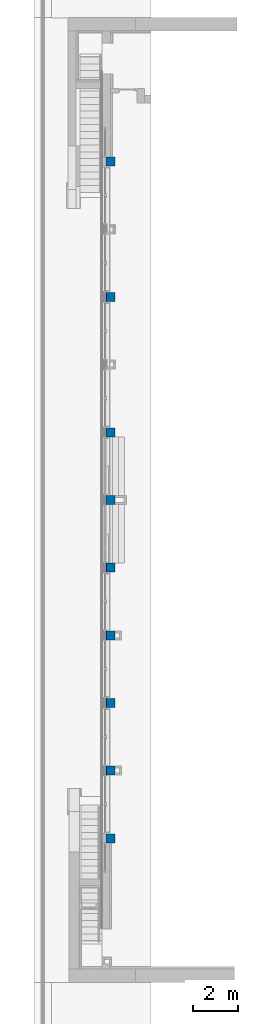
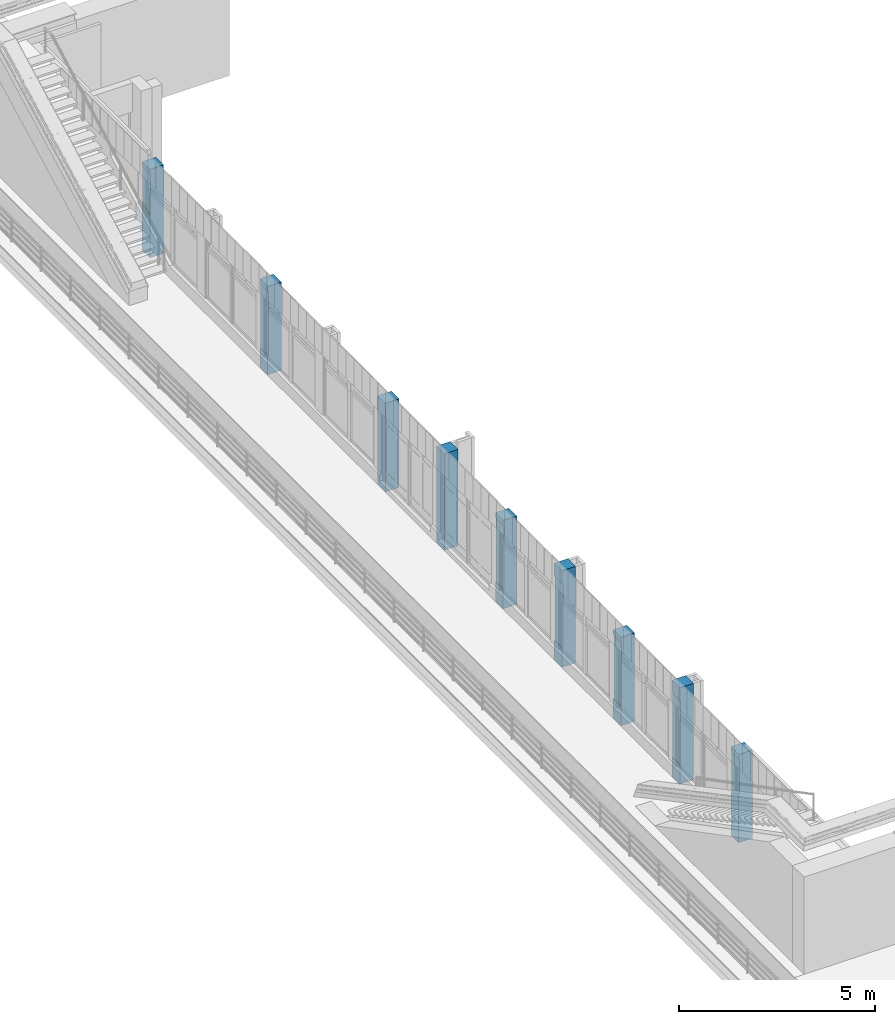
# One storey, part 1 of 16: 9 columns.
"""IFC2X3 building model written with IfcOpenShell, lengths in millimetres."""

import ifcopenshell
import ifcopenshell.guid

model = None  # the IFC model being written
_history = None  # IfcOwnerHistory: only IFC2X3 demands one
_inside = {}  # id of a spatial element -> (the spatial element, [elements in it])
_under = {}  # id of a project, library or spatial element -> (it, [spatial elements below it])
_declared = {}  # id of a project -> (the project, [libraries it declares])
_typed = {}  # id of a type object -> (the type object, [elements of that type])
_made_of = {}  # id of a material, layer set ... -> (it, [elements and type objects made of it])


def new_model(schema):
    """Start an empty IFC model of exactly this schema.

    Asked for "IFC4X3", IfcOpenShell would pick the latest addendum, in which some entities
    have other attributes; the version numbers below select the first issue.
    IFC2X3 requires an IfcOwnerHistory on every rooted entity: one is made here for all.
    """
    global model, _history
    if schema == "IFC4X3":
        model = ifcopenshell.file(schema_version=(4, 3, 0, 0))
    else:
        model = ifcopenshell.file(schema=schema)
    _inside.clear()
    _under.clear()
    _declared.clear()
    _typed.clear()
    _made_of.clear()
    _history = None
    if model.schema == "IFC2X3":
        org = make("IfcOrganization", Name="unknown")
        user = make(
            "IfcPersonAndOrganization",
            ThePerson=make("IfcPerson", FamilyName="unknown"),
            TheOrganization=org,
        )
        app = make(
            "IfcApplication",
            ApplicationDeveloper=org,
            Version="unknown",
            ApplicationFullName="unknown",
            ApplicationIdentifier="unknown",
        )
        _history = make(
            "IfcOwnerHistory",
            OwningUser=user,
            OwningApplication=app,
            ChangeAction="ADDED",
            CreationDate=0,
        )
    return model


def make(cls, **values):
    """One entity of the class cls with the attributes given. An attribute that is None is left unset."""
    return model.create_entity(
        cls, **{name: value for name, value in values.items() if value is not None}
    )


def entity(cls, *values):
    """Any entity or typed value of the class cls, its attributes in the order of the schema. None: left unset."""
    e = model.create_entity(cls)
    for i, value in enumerate(values):
        if value is not None:
            e[i] = value
    return e


def rooted(cls, **values):
    """An entity with a GlobalId (a new one), such as an element, a storey or a relation."""
    return make(cls, GlobalId=ifcopenshell.guid.new(), OwnerHistory=_history, **values)


def si_unit(unit_type, name, prefix=None):
    """IfcSIUnit, for example si_unit("LENGTHUNIT", "METRE", prefix="MILLI")."""
    return make("IfcSIUnit", UnitType=unit_type, Prefix=prefix, Name=name)


def converted_unit(unit_type, name, factor, base, dimensions=None, offset=None):
    """IfcConversionBasedUnit, such as the inch: factor (a typed value) times the base unit."""
    return make(
        "IfcConversionBasedUnit"
        if offset is None
        else "IfcConversionBasedUnitWithOffset",
        ConversionOffset=offset,
        Dimensions=None
        if dimensions is None
        else entity("IfcDimensionalExponents", *dimensions),
        UnitType=unit_type,
        Name=name,
        ConversionFactor=make(
            "IfcMeasureWithUnit", ValueComponent=factor, UnitComponent=base
        ),
    )


def derived_unit(unit_type, elements):
    """IfcDerivedUnit: a product of units, each with its exponent."""
    return make(
        "IfcDerivedUnit",
        Elements=[
            make("IfcDerivedUnitElement", Unit=unit, Exponent=power)
            for unit, power in elements
        ],
        UnitType=unit_type,
    )


def assignment(units):
    """IfcUnitAssignment: the units of a project."""
    return None if units is None else make("IfcUnitAssignment", Units=units)


def point(xyz):
    """IfcCartesianPoint."""
    return None if xyz is None else make("IfcCartesianPoint", Coordinates=xyz)


def direction(xyz):
    """IfcDirection."""
    return None if xyz is None else make("IfcDirection", DirectionRatios=xyz)


def frame(location, z_axis=None, x_axis=None):
    """IfcAxis2Placement3D, a coordinate frame: its origin and axes. An axis left out is left unset."""
    return make(
        "IfcAxis2Placement3D",
        Location=point(location),
        Axis=direction(z_axis),
        RefDirection=direction(x_axis),
    )


def frame_2d(location, x_axis=None):
    """IfcAxis2Placement2D, a coordinate frame in the plane: its origin and x axis."""
    return make(
        "IfcAxis2Placement2D", Location=point(location), RefDirection=direction(x_axis)
    )


def origin():
    """The frame at (0, 0, 0) with its axes left unset."""
    return frame((0.0, 0.0, 0.0))


def place(relative_to, where):
    """IfcLocalPlacement: puts the frame where relative to a parent placement (None: the world)."""
    return make(
        "IfcLocalPlacement", PlacementRelTo=relative_to, RelativePlacement=where
    )


def context(
    kind, dimensions, precision=None, world=None, true_north=None, identifier=None
):
    """IfcGeometricRepresentationContext, for example the 3D "Model" context."""
    return make(
        "IfcGeometricRepresentationContext",
        ContextIdentifier=identifier,
        ContextType=kind,
        CoordinateSpaceDimension=dimensions,
        Precision=precision,
        WorldCoordinateSystem=world,
        TrueNorth=true_north,
    )


def subcontext(parent, identifier, kind, view, scale=None):
    """IfcGeometricRepresentationSubContext, for example "Body" below "Model"."""
    return make(
        "IfcGeometricRepresentationSubContext",
        ContextIdentifier=identifier,
        ContextType=kind,
        ParentContext=parent,
        TargetScale=scale,
        TargetView=view,
    )


def project(units=None, contexts=None):
    """IfcProject with its units and contexts."""
    return rooted(
        "IfcProject",
        Name="project",
        RepresentationContexts=contexts,
        UnitsInContext=assignment(units),
    )


def spatial(cls, under=None, at=None, **own):
    """A site, building, storey or space (cls), placed at a placement, below another one or the project."""
    s = rooted(cls, ObjectPlacement=at, **own)
    if under is not None:
        _under.setdefault(under.id(), (under, []))[1].append(s)
    return s


def polyline(points):
    """IfcPolyline through the points."""
    return make("IfcPolyline", Points=[point(p) for p in points])


def profile(cls, at=None, kind="AREA", **sizes):
    """A parametric profile (cls). Its sizes go by their IFC names, for example OverallWidth=200.0."""
    return make(cls, ProfileType=kind, Position=at, **sizes)


def rectangle(**sizes):
    """IfcRectangleProfileDef."""
    return profile("IfcRectangleProfileDef", **sizes)


def outline(outer, holes=None, kind="AREA"):
    """IfcArbitraryClosedProfileDef: a profile drawn as a closed curve; with holes, ...WithVoids."""
    if holes is None:
        return make("IfcArbitraryClosedProfileDef", ProfileType=kind, OuterCurve=outer)
    return make(
        "IfcArbitraryProfileDefWithVoids",
        ProfileType=kind,
        OuterCurve=outer,
        InnerCurves=holes,
    )


def extrude(swept, where, along, depth):
    """IfcExtrudedAreaSolid: the profile swept, set in the frame where, extruded along a direction by depth."""
    return make(
        "IfcExtrudedAreaSolid",
        SweptArea=swept,
        Position=where,
        ExtrudedDirection=direction(along),
        Depth=depth,
    )


def faces_of(points, faces, orient=None, outer=None):
    """IfcFace entities. A face is a list of loops; a loop is a list of indices into points, from 0.

    orient and outer hold one flag for each loop. By default every Orientation is true, the
    first loop of a face is its IfcFaceOuterBound and the others are IfcFaceBound.
    """
    made = []
    for i, loops in enumerate(faces):
        bounds = []
        for j, loop in enumerate(loops):
            is_outer = j == 0 if outer is None else outer[i][j]
            bounds.append(
                make(
                    "IfcFaceOuterBound" if is_outer else "IfcFaceBound",
                    Bound=make("IfcPolyLoop", Polygon=[points[k] for k in loop]),
                    Orientation=True if orient is None else orient[i][j],
                )
            )
        made.append(make("IfcFace", Bounds=bounds))
    return made


def faceted_brep(points, faces, orient=None, outer=None, voids=None):
    """IfcFacetedBrep: a solid bounded by flat faces; with voids (closed shells), ...WithVoids."""
    shared = [point(p) for p in points]
    hull = make("IfcClosedShell", CfsFaces=faces_of(shared, faces, orient, outer))
    if voids is None:
        return make("IfcFacetedBrep", Outer=hull)
    return make(
        "IfcFacetedBrepWithVoids",
        Outer=hull,
        Voids=[
            make(cls, CfsFaces=faces_of(shared, fs, o, b)) for cls, fs, o, b in voids
        ],
    )


def shape(context_of_items, identifier, shape_type, items):
    """IfcShapeRepresentation: the items that make up one representation, for example the "Body"."""
    return make(
        "IfcShapeRepresentation",
        ContextOfItems=context_of_items,
        RepresentationIdentifier=identifier,
        RepresentationType=shape_type,
        Items=items,
    )


def source(mapping_origin, context_of_items, identifier, shape_type, items):
    """IfcRepresentationMap: a shape defined once, which mapped items show again and again."""
    return make(
        "IfcRepresentationMap",
        MappingOrigin=mapping_origin,
        MappedRepresentation=shape(context_of_items, identifier, shape_type, items),
    )


def transform(
    local_origin,
    x_axis=None,
    y_axis=None,
    z_axis=None,
    scale=None,
    scale2=None,
    scale3=None,
    uniform=True,
):
    """IfcCartesianTransformationOperator3D, or its non-uniform kind. x_axis, y_axis, z_axis: its Axis1, 2, 3."""
    if uniform:
        return make(
            "IfcCartesianTransformationOperator3D",
            Axis1=direction(x_axis),
            Axis2=direction(y_axis),
            LocalOrigin=point(local_origin),
            Scale=scale,
            Axis3=direction(z_axis),
        )
    return make(
        "IfcCartesianTransformationOperator3DnonUniform",
        Axis1=direction(x_axis),
        Axis2=direction(y_axis),
        LocalOrigin=point(local_origin),
        Scale=scale,
        Axis3=direction(z_axis),
        Scale2=scale2,
        Scale3=scale3,
    )


def mapped(mapping_source, mapping_target):
    """IfcMappedItem: shows the shape of a source again, moved by a transform."""
    return make(
        "IfcMappedItem", MappingSource=mapping_source, MappingTarget=mapping_target
    )


def material(Name=None, Category=None):
    """IfcMaterial."""
    return make("IfcMaterial", Name=Name, Category=Category)


def made_of(thing, what):
    """Note that an element or type object is made of a material, layer set ...; save() writes the relation."""
    if what is not None:
        _made_of.setdefault(what.id(), (what, []))[1].append(thing)
    return thing


def type_object(cls, material=None, **own):
    """A type object (cls), such as IfcWallType, which elements share."""
    return made_of(rooted(cls, **own), material)


def type_shapes(of_type, sources):
    """Give a type object the sources (RepresentationMaps) that its elements show as mapped items."""
    of_type.RepresentationMaps = sources


def element(
    cls,
    number,
    at=None,
    inside=None,
    cuts=None,
    type_object=None,
    material=None,
    context=None,
    identifier="Body",
    shape_type=None,
    held_by="IfcProductDefinitionShape",
    body=None,
    shapes=None,
    **own,
):
    """One element of the class cls, such as IfcWall. Its Tag is "e" and its number.

    at: its placement. inside: the storey or other place that contains it. cuts: it is an
    opening in that element (IfcRelVoidsElement). A single representation is given by context,
    identifier, shape_type and body (its items); several are given by shapes. held_by: the class
    of the entity that holds the representations. save() writes the other relations.
    """
    e = rooted(cls, Tag="e%d" % number, ObjectPlacement=at, **own)
    if body is not None:
        shapes = [shape(context, identifier, shape_type, body)]
    if shapes is not None:
        e.Representation = make(held_by, Representations=shapes)
    if inside is not None:
        _inside.setdefault(inside.id(), (inside, []))[1].append(e)
    if cuts is not None:
        rooted(
            "IfcRelVoidsElement", RelatingBuildingElement=cuts, RelatedOpeningElement=e
        )
    if type_object is not None:
        _typed.setdefault(type_object.id(), (type_object, []))[1].append(e)
    return made_of(e, material)


def aggregate(whole, parts):
    """IfcRelAggregates: a whole, such as a stair, and the parts it consists of."""
    return rooted("IfcRelAggregates", RelatingObject=whole, RelatedObjects=parts)


def save(model, path):
    """Write the relations noted so far, then the file.

    IfcRelAggregates (storeys below a building ...), IfcRelContainedInSpatialStructure (elements
    in a storey), IfcRelDefinesByType, IfcRelAssociatesMaterial and IfcRelDeclares: one each for
    every whole, place, type object, material and project.
    """
    for whole, parts in _under.values():
        aggregate(whole, parts)
    for where, things in _inside.values():
        rooted(
            "IfcRelContainedInSpatialStructure",
            RelatedElements=things,
            RelatingStructure=where,
        )
    for kind, things in _typed.values():
        rooted("IfcRelDefinesByType", RelatedObjects=things, RelatingType=kind)
    for what, things in _made_of.values():
        rooted("IfcRelAssociatesMaterial", RelatedObjects=things, RelatingMaterial=what)
    for by, libraries in _declared.values():
        rooted("IfcRelDeclares", RelatingContext=by, RelatedDefinitions=libraries)
    model.write(path)


model = new_model("IFC2X3")

# Units and contexts
model_context = context("Model", 3, precision=0.01, world=origin(), true_north=direction((6.123031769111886e-17, 1.0)))
body_context = subcontext(model_context, "Body", "Model", "MODEL_VIEW")
ifc_project = project(units=[si_unit("LENGTHUNIT", "METRE", prefix="MILLI"), si_unit("AREAUNIT", "SQUARE_METRE"), si_unit("VOLUMEUNIT", "CUBIC_METRE"), converted_unit("PLANEANGLEUNIT", "DEGREE", entity("IfcPlaneAngleMeasure", 0.017453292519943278), si_unit("PLANEANGLEUNIT", "RADIAN"), dimensions=[0, 0, 0, 0, 0, 0, 0]), si_unit("MASSUNIT", "GRAM", prefix="KILO"), derived_unit("MASSDENSITYUNIT", [(si_unit("MASSUNIT", "GRAM", prefix="KILO"), 1), (si_unit("LENGTHUNIT", "METRE"), -3)]), derived_unit("IONCONCENTRATIONUNIT", [(si_unit("MASSUNIT", "GRAM", prefix="KILO"), 1), (si_unit("LENGTHUNIT", "METRE"), -3)]), derived_unit("MOMENTOFINERTIAUNIT", [(si_unit("LENGTHUNIT", "METRE"), 4)]), si_unit("TIMEUNIT", "SECOND"), si_unit("FREQUENCYUNIT", "HERTZ"), si_unit("THERMODYNAMICTEMPERATUREUNIT", "DEGREE_CELSIUS"), derived_unit("THERMALTRANSMITTANCEUNIT", [(si_unit("MASSUNIT", "GRAM", prefix="KILO"), 1), (si_unit("THERMODYNAMICTEMPERATUREUNIT", "KELVIN"), -1), (si_unit("TIMEUNIT", "SECOND"), -3)]), derived_unit("THERMALCONDUCTANCEUNIT", [(si_unit("MASSUNIT", "GRAM", prefix="KILO"), 1), (si_unit("THERMODYNAMICTEMPERATUREUNIT", "KELVIN"), -1), (si_unit("TIMEUNIT", "SECOND"), -3), (si_unit("LENGTHUNIT", "METRE"), 1)]), derived_unit("VOLUMETRICFLOWRATEUNIT", [(si_unit("LENGTHUNIT", "METRE", prefix="DECI"), 3), (si_unit("TIMEUNIT", "SECOND"), -1)]), derived_unit("MASSFLOWRATEUNIT", [(si_unit("MASSUNIT", "GRAM", prefix="KILO"), 1), (si_unit("TIMEUNIT", "SECOND"), -1)]), derived_unit("ROTATIONALFREQUENCYUNIT", [(si_unit("TIMEUNIT", "SECOND"), -1)]), si_unit("ELECTRICCURRENTUNIT", "AMPERE"), si_unit("ELECTRICVOLTAGEUNIT", "VOLT"), si_unit("POWERUNIT", "WATT"), si_unit("FORCEUNIT", "NEWTON", prefix="KILO"), si_unit("ILLUMINANCEUNIT", "LUX"), si_unit("LUMINOUSFLUXUNIT", "LUMEN"), si_unit("LUMINOUSINTENSITYUNIT", "CANDELA"), si_unit("ENERGYUNIT", "JOULE"), derived_unit("USERDEFINED", [(si_unit("MASSUNIT", "GRAM", prefix="KILO"), -1), (si_unit("LENGTHUNIT", "METRE"), -2), (si_unit("TIMEUNIT", "SECOND"), 3), (si_unit("LUMINOUSFLUXUNIT", "LUMEN"), 1)]), derived_unit("USERDEFINED", [(si_unit("MASSUNIT", "GRAM", prefix="KILO"), 1), (si_unit("TIMEUNIT", "SECOND"), -3), (si_unit("LENGTHUNIT", "METRE"), 3), (si_unit("ELECTRICCURRENTUNIT", "AMPERE"), -2)]), derived_unit("SOUNDPOWERUNIT", [(si_unit("MASSUNIT", "GRAM", prefix="KILO"), 1), (si_unit("TIMEUNIT", "SECOND"), -3), (si_unit("LENGTHUNIT", "METRE"), 2)]), derived_unit("SOUNDPRESSUREUNIT", [(si_unit("MASSUNIT", "GRAM", prefix="KILO"), 1), (si_unit("LENGTHUNIT", "METRE"), -1), (si_unit("TIMEUNIT", "SECOND"), -2)]), derived_unit("LINEARVELOCITYUNIT", [(si_unit("LENGTHUNIT", "METRE"), 1), (si_unit("TIMEUNIT", "SECOND"), -1)]), si_unit("PRESSUREUNIT", "PASCAL"), derived_unit("USERDEFINED", [(si_unit("MASSUNIT", "GRAM", prefix="KILO"), 1), (si_unit("LENGTHUNIT", "METRE"), -2), (si_unit("TIMEUNIT", "SECOND"), -2)]), derived_unit("LINEARFORCEUNIT", [(si_unit("MASSUNIT", "GRAM", prefix="KILO"), 1), (si_unit("TIMEUNIT", "SECOND"), -2)]), derived_unit("PLANARFORCEUNIT", [(si_unit("MASSUNIT", "GRAM", prefix="KILO"), 1), (si_unit("LENGTHUNIT", "METRE"), -1), (si_unit("TIMEUNIT", "SECOND"), -2)]), derived_unit("SPECIFICHEATCAPACITYUNIT", [(si_unit("THERMODYNAMICTEMPERATUREUNIT", "KELVIN"), -1), (si_unit("LENGTHUNIT", "METRE"), 2), (si_unit("TIMEUNIT", "SECOND"), -2)]), derived_unit("HEATFLUXDENSITYUNIT", [(si_unit("MASSUNIT", "GRAM", prefix="KILO"), 1), (si_unit("TIMEUNIT", "SECOND"), -3)]), derived_unit("HEATINGVALUEUNIT", [(si_unit("LENGTHUNIT", "METRE"), 2), (si_unit("TIMEUNIT", "SECOND"), -2)]), derived_unit("VAPORPERMEABILITYUNIT", [(si_unit("LENGTHUNIT", "METRE"), -1), (si_unit("TIMEUNIT", "SECOND"), 1)]), derived_unit("DYNAMICVISCOSITYUNIT", [(si_unit("MASSUNIT", "GRAM", prefix="KILO"), 1), (si_unit("TIMEUNIT", "SECOND"), -1), (si_unit("LENGTHUNIT", "METRE"), -1)]), derived_unit("THERMALEXPANSIONCOEFFICIENTUNIT", [(si_unit("THERMODYNAMICTEMPERATUREUNIT", "KELVIN"), -1)]), derived_unit("MODULUSOFELASTICITYUNIT", [(si_unit("MASSUNIT", "GRAM", prefix="KILO"), 1), (si_unit("LENGTHUNIT", "METRE"), -1), (si_unit("TIMEUNIT", "SECOND"), -2)]), derived_unit("ISOTHERMALMOISTURECAPACITYUNIT", [(si_unit("MASSUNIT", "GRAM", prefix="KILO"), -1), (si_unit("LENGTHUNIT", "METRE"), 3)]), derived_unit("MOISTUREDIFFUSIVITYUNIT", [(si_unit("TIMEUNIT", "SECOND"), -1), (si_unit("LENGTHUNIT", "METRE"), 2)]), derived_unit("MASSPERLENGTHUNIT", [(si_unit("MASSUNIT", "GRAM", prefix="KILO"), 1), (si_unit("LENGTHUNIT", "METRE"), -1)]), derived_unit("THERMALRESISTANCEUNIT", [(si_unit("MASSUNIT", "GRAM", prefix="KILO"), -1), (si_unit("TIMEUNIT", "SECOND"), 3), (si_unit("THERMODYNAMICTEMPERATUREUNIT", "KELVIN"), 1)]), derived_unit("ACCELERATIONUNIT", [(si_unit("LENGTHUNIT", "METRE"), 1), (si_unit("TIMEUNIT", "SECOND"), -2)]), derived_unit("ANGULARVELOCITYUNIT", [(si_unit("TIMEUNIT", "SECOND"), -1), (si_unit("PLANEANGLEUNIT", "RADIAN"), 1)]), derived_unit("LINEARSTIFFNESSUNIT", [(si_unit("MASSUNIT", "GRAM", prefix="KILO"), 1), (si_unit("TIMEUNIT", "SECOND"), -2)]), derived_unit("WARPINGCONSTANTUNIT", [(si_unit("LENGTHUNIT", "METRE"), 6)]), derived_unit("LINEARMOMENTUNIT", [(si_unit("MASSUNIT", "GRAM", prefix="KILO"), 1), (si_unit("LENGTHUNIT", "METRE"), 1), (si_unit("TIMEUNIT", "SECOND"), -2)]), derived_unit("TORQUEUNIT", [(si_unit("MASSUNIT", "GRAM", prefix="KILO"), 1), (si_unit("LENGTHUNIT", "METRE"), 2), (si_unit("TIMEUNIT", "SECOND"), -2)])], contexts=[model_context])

# Site, building, storey
site_placement = place(None, origin())
site = spatial("IfcSite", under=ifc_project, at=site_placement, Name="Default", CompositionType="ELEMENT")
building_placement = place(site_placement, origin())
building = spatial("IfcBuilding", under=site, at=building_placement, Name="Eesti Rahvusraamatukogu hoone renoveerimise projekteerimistööd", CompositionType="ELEMENT")
storey_placement = place(building_placement, frame((0.0, 0.0, 8250.000000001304)))
storey = spatial("IfcBuildingStorey", under=building, at=storey_placement, Name="3. korrus", CompositionType="ELEMENT", Elevation=8250.000000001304)

# Columns
ifc_material = material(Name="ol. olev materjal")
column_type_1 = type_object("IfcColumnType", Name="Post, nelinurkne:ol. olev - 400x 400mm", PredefinedType="COLUMN", material=ifc_material)
shared_shape_1 = source(origin(), body_context, "Body", "Brep", [
    faceted_brep([(-33190.0, 12590.0, 8250.000000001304), (-33190.0, 12330.0, 8250.000000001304), (-33190.0, 12190.0, 8250.000000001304), (-33355.49999999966, 12190.0, 8250.000000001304), (-33440.0, 12190.0, 8250.000000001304), (-33590.0, 12190.0, 8250.000000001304), (-33590.0, 12590.0, 8250.000000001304), (-33425.0, 12590.0, 8250.000000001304), (-33390.0, 12590.0, 8250.000000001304), (-33590.0, 12590.0, 9550.000000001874), (-33570.0, 12590.0, 9550.000000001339), (-33570.0, 12590.0, 10850.000000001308), (-33590.0, 12590.0, 10850.000000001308), (-33590.0, 12590.0, 11000.0), (-33448.4999999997, 12590.0, 11000.0), (-33190.0, 12590.0, 11000.0), (-33590.0, 12190.0, 11000.0), (-33590.0, 12190.0, 10850.000000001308), (-33190.0, 12190.0, 11000.0), (-33440.0, 12190.0, 11000.0), (-33570.0, 12190.0, 10850.000000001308), (-33570.0, 12190.0, 9765.384615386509), (-33590.0, 12190.0, 9765.384615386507), (-33190.0, 12330.0, 11000.0)], [[[0, 1, 2, 3, 4, 5, 6, 7, 8]], [[0, 8, 7, 6, 9, 10, 11, 12, 13, 14, 15]], [[16, 13, 12, 17]], [[5, 4, 3, 2, 18, 19, 16, 17, 20, 21, 22]], [[2, 1, 0, 15, 23, 18]], [[15, 14, 13, 16, 19, 18, 23]], [[10, 21, 20, 11]], [[11, 20, 17, 12]], [[21, 10, 9, 22]], [[6, 5, 22, 9]]]),
])
type_shapes(column_type_1, [shared_shape_1])
column_1_placement = place(storey_placement, frame((0.0, 0.0, -8250.000000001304)))
element("IfcColumn", 1, at=column_1_placement, inside=storey, type_object=column_type_1, material=ifc_material, Name="Post, nelinurkne:ol. olev - 400x 400mm", ObjectType="Post, nelinurkne:ol. olev - 400x 400mm", context=body_context, shape_type="MappedRepresentation", body=[
    mapped(shared_shape_1, transform((0.0, 0.0, 0.0), scale=1.0)),
])
column_type_2 = type_object("IfcColumnType", Name="Post, nelinurkne:ol. olev - 400x 400mm", PredefinedType="COLUMN", material=ifc_material)
shared_shape_2 = source(origin(), body_context, "Body", "Brep", [
    faceted_brep([(-33190.0, 42590.0, 8250.000000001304), (-33190.0, 42190.0, 8250.000000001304), (-33390.0, 42190.0, 8250.000000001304), (-33425.0, 42190.0, 8250.000000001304), (-33590.0, 42190.0, 8250.000000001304), (-33590.0, 42590.0, 8250.000000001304), (-33390.0, 42590.0, 8250.000000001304), (-33590.0, 42590.0, 9765.384615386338), (-33570.0, 42590.0, 9765.38461538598), (-33570.0, 42590.0, 10850.000000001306), (-33590.0, 42590.0, 10850.000000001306), (-33590.0, 42590.0, 11000.0), (-33390.0, 42590.0, 11000.0), (-33190.0, 42590.0, 11000.0), (-33590.0, 42190.0, 11000.0), (-33590.0, 42190.0, 10850.000000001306), (-33190.0, 42190.0, 11000.0), (-33448.499999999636, 42190.0, 11000.0), (-33570.0, 42190.0, 10850.000000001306), (-33570.0, 42190.0, 9550.000000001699), (-33590.0, 42190.0, 9550.000000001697)], [[[0, 1, 2, 3, 4, 5, 6]], [[0, 6, 5, 7, 8, 9, 10, 11, 12, 13]], [[14, 11, 10, 15]], [[4, 3, 2, 1, 16, 17, 14, 15, 18, 19, 20]], [[1, 0, 13, 16]], [[13, 12, 11, 14, 17, 16]], [[18, 9, 8, 19]], [[19, 8, 7, 20]], [[5, 4, 20, 7]], [[9, 18, 15, 10]]]),
])
type_shapes(column_type_2, [shared_shape_2])
column_2_placement = place(storey_placement, frame((0.0, 0.0, -8250.000000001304)))
element("IfcColumn", 2, at=column_2_placement, inside=storey, type_object=column_type_2, material=ifc_material, Name="Post, nelinurkne:ol. olev - 400x 400mm", ObjectType="Post, nelinurkne:ol. olev - 400x 400mm", context=body_context, shape_type="MappedRepresentation", body=[
    mapped(shared_shape_2, transform((0.0, 0.0, 0.0), scale=1.0)),
])
column_type_3 = type_object("IfcColumnType", Name="Post, nelinurkne:ol. olev - 400x 400mm", PredefinedType="COLUMN", material=ifc_material)
shared_shape_3 = source(origin(), body_context, "Body", "SweptSolid", [
    extrude(outline(polyline([(-1465.0, -114.64999999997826), (-865.0, -114.64999999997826), (-865.0, -94.65000000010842), (1135.0, -94.65000000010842), (1135.0, -114.64999999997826), (1285.0, -114.64999999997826), (1285.0, 26.85000000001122), (1285.0, 285.35000000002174), (-1465.0, 285.35000000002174), (-1465.0, 50.3500000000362), (-1465.0, -114.64999999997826)])), frame((-33475.34999999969, 24190.0, 9715.000000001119), z_axis=(0.0, 1.0, 0.0), x_axis=(0.0, 0.0, 1.0)), (0.0, 0.0, 1.0), 399.9999999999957),
])
type_shapes(column_type_3, [shared_shape_3])
column_3_placement = place(storey_placement, frame((0.0, 0.0, -8250.000000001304)))
element("IfcColumn", 3, at=column_3_placement, inside=storey, type_object=column_type_3, material=ifc_material, Name="Post, nelinurkne:ol. olev - 400x 400mm", ObjectType="Post, nelinurkne:ol. olev - 400x 400mm", context=body_context, shape_type="MappedRepresentation", body=[
    mapped(shared_shape_3, transform((0.0, 0.0, 0.0), scale=1.0)),
])
column_type_4 = type_object("IfcColumnType", Name="Post, nelinurkne:ol. olev - 400x 400mm", PredefinedType="COLUMN", material=ifc_material)
shared_shape_4 = source(origin(), body_context, "Body", "SweptSolid", [
    extrude(outline(polyline([(-1460.0, -285.35000000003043), (1540.0, -285.35000000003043), (1540.0, -50.35000000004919), (1540.0, 114.64999999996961), (940.0, 114.64999999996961), (940.0, 94.65000000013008), (-1060.0, 94.65000000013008), (-1060.0, 114.64999999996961), (-1460.0, 114.64999999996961), (-1460.0, -26.850000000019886), (-1460.0, -285.35000000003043)])), frame((-33475.34999999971, 21190.0, 9790.000000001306), z_axis=(0.0, 1.0, 0.0), x_axis=(0.0, 0.0, -1.0)), (0.0, 0.0, 1.0), 399.9999999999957),
])
type_shapes(column_type_4, [shared_shape_4])
column_4_placement = place(storey_placement, frame((0.0, 0.0, -8250.000000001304)))
element("IfcColumn", 4, at=column_4_placement, inside=storey, type_object=column_type_4, material=ifc_material, Name="Post, nelinurkne:ol. olev - 400x 400mm", ObjectType="Post, nelinurkne:ol. olev - 400x 400mm", context=body_context, shape_type="MappedRepresentation", body=[
    mapped(shared_shape_4, transform((0.0, 0.0, 0.0), scale=1.0)),
])
column_type_5 = type_object("IfcColumnType", Name="Post, nelinurkne:ol. olev - 400x 400mm", PredefinedType="COLUMN", material=ifc_material)
shared_shape_5 = source(origin(), body_context, "Body", "SweptSolid", [
    extrude(outline(polyline([(-1460.0, -285.3500000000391), (1540.0, -285.3500000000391), (1540.0, -50.350000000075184), (1540.0, 114.64999999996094), (940.0, 114.64999999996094), (940.0, 94.65000000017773), (-1060.0, 94.65000000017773), (-1060.0, 114.64999999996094), (-1460.0, 114.64999999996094), (-1460.0, -26.85000000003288), (-1460.0, -285.3500000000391)])), frame((-33475.34999999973, 15190.0, 9790.000000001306), z_axis=(0.0, 1.0, 0.0), x_axis=(0.0, 0.0, -1.0)), (0.0, 0.0, 1.0), 400.0),
])
type_shapes(column_type_5, [shared_shape_5])
column_5_placement = place(storey_placement, frame((0.0, 0.0, -8250.000000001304)))
element("IfcColumn", 5, at=column_5_placement, inside=storey, type_object=column_type_5, material=ifc_material, Name="Post, nelinurkne:ol. olev - 400x 400mm", ObjectType="Post, nelinurkne:ol. olev - 400x 400mm", context=body_context, shape_type="MappedRepresentation", body=[
    mapped(shared_shape_5, transform((0.0, 0.0, 0.0), scale=1.0)),
])
column_type_6 = type_object("IfcColumnType", Name="Post, nelinurkne:ol. olev - 400x 400mm", PredefinedType="COLUMN", material=ifc_material)
shared_shape_6 = source(origin(), body_context, "Body", "SweptSolid", [
    extrude(rectangle(XDim=400.0, YDim=400.0, at=frame_2d((41.250000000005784, 2.1742607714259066e-12), x_axis=(1.0, 0.0))), frame((-33348.749999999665, 27390.0, 8250.000000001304), z_axis=(0.0, 0.0, 1.0), x_axis=(-1.0, 0.0, 0.0)), (0.0, 0.0, 1.0), 3000.0000000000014),
])
type_shapes(column_type_6, [shared_shape_6])
column_6_placement = place(storey_placement, frame((0.0, 0.0, -8250.000000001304)))
element("IfcColumn", 6, at=column_6_placement, inside=storey, type_object=column_type_6, material=ifc_material, Name="Post, nelinurkne:ol. olev - 400x 400mm", ObjectType="Post, nelinurkne:ol. olev - 400x 400mm", context=body_context, shape_type="MappedRepresentation", body=[
    mapped(shared_shape_6, transform((0.0, 0.0, 0.0), scale=1.0)),
])
column_type_7 = type_object("IfcColumnType", Name="Post, nelinurkne:ol. olev - 400x 400mm", PredefinedType="COLUMN", material=ifc_material)
shared_shape_7 = source(origin(), body_context, "Body", "SweptSolid", [
    extrude(rectangle(XDim=400.0, YDim=400.0, at=frame_2d((-11.66666666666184, -2.1742607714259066e-12), x_axis=(1.0, 0.0))), frame((-33401.66666666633, 30390.0, 8250.000000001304), z_axis=(0.0, 0.0, 1.0), x_axis=(-1.0, 0.0, 0.0)), (0.0, 0.0, 1.0), 2749.999999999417),
])
type_shapes(column_type_7, [shared_shape_7])
column_7_placement = place(storey_placement, frame((0.0, 0.0, -8250.000000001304)))
element("IfcColumn", 7, at=column_7_placement, inside=storey, type_object=column_type_7, material=ifc_material, Name="Post, nelinurkne:ol. olev - 400x 400mm", ObjectType="Post, nelinurkne:ol. olev - 400x 400mm", context=body_context, shape_type="MappedRepresentation", body=[
    mapped(shared_shape_7, transform((0.0, 0.0, 0.0), scale=1.0)),
])
column_type_8 = type_object("IfcColumnType", Name="Post, nelinurkne:ol. olev - 400x 400mm", PredefinedType="COLUMN", material=ifc_material)
shared_shape_8 = source(origin(), body_context, "Body", "SweptSolid", [
    extrude(outline(polyline([(-1465.0, -114.65000000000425), (-865.0, -114.65000000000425), (-865.0, -94.65000000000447), (1135.0, -94.65000000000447), (1135.0, -114.65000000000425), (1285.0, -114.65000000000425), (1285.0, 26.849999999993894), (1285.0, 285.34999999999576), (-1465.0, 285.34999999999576), (-1465.0, 50.34999999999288), (-1465.0, -114.65000000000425)])), frame((-33475.34999999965, 36190.0, 9715.000000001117), z_axis=(0.0, 1.0, 0.0), x_axis=(0.0, 0.0, 1.0)), (0.0, 0.0, 1.0), 399.9999999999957),
])
type_shapes(column_type_8, [shared_shape_8])
column_8_placement = place(storey_placement, frame((0.0, 0.0, -8250.000000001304)))
element("IfcColumn", 8, at=column_8_placement, inside=storey, type_object=column_type_8, material=ifc_material, Name="Post, nelinurkne:ol. olev - 400x 400mm", ObjectType="Post, nelinurkne:ol. olev - 400x 400mm", context=body_context, shape_type="MappedRepresentation", body=[
    mapped(shared_shape_8, transform((0.0, 0.0, 0.0), scale=1.0)),
])
column_type_9 = type_object("IfcColumnType", Name="Post, nelinurkne:ol. olev - 400x 400mm", PredefinedType="COLUMN", material=ifc_material)
shared_shape_9 = source(origin(), body_context, "Body", "SweptSolid", [
    extrude(outline(polyline([(-1465.0, -114.64999999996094), (-865.0, -114.64999999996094), (-865.0, -94.6500000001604), (1135.0, -94.6500000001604), (1135.0, -114.64999999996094), (1285.0, -114.64999999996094), (1285.0, 26.850000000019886), (1285.0, 285.3500000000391), (-1465.0, 285.3500000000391), (-1465.0, 50.350000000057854), (-1465.0, -114.64999999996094)])), frame((-33475.349999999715, 18190.0, 9715.000000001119), z_axis=(0.0, 1.0, 0.0), x_axis=(0.0, 0.0, 1.0)), (0.0, 0.0, 1.0), 400.0),
])
type_shapes(column_type_9, [shared_shape_9])
column_9_placement = place(storey_placement, frame((0.0, 0.0, -8250.000000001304)))
element("IfcColumn", 9, at=column_9_placement, inside=storey, type_object=column_type_9, material=ifc_material, Name="Post, nelinurkne:ol. olev - 400x 400mm", ObjectType="Post, nelinurkne:ol. olev - 400x 400mm", context=body_context, shape_type="MappedRepresentation", body=[
    mapped(shared_shape_9, transform((0.0, 0.0, 0.0), scale=1.0)),
])

save(model, "model.ifc")
